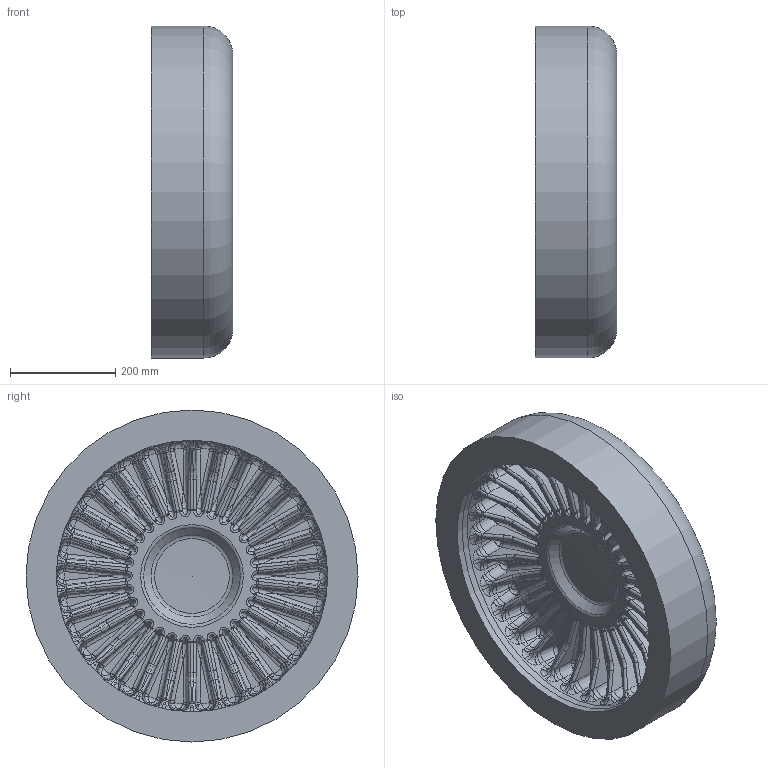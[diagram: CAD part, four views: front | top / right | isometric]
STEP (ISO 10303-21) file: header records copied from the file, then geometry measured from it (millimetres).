
FILE_DESCRIPTION(/* description */ ('Unknown'),/* implementation_level */ '2;1');
FILE_NAME(/* name */ 'CAP630C',/* time_stamp */ '2022-05-16T10:12:47+02:00',/* author */ ('Unknown'),/* organization */ ('Unknown'),/* preprocessor_version */ 'ST-DEVELOPER v18.1',/* originating_system */ 'Solid Edge',/* authorisation */ 'Unknown');
FILE_SCHEMA (('AUTOMOTIVE_DESIGN {1 0 10303 214 3 1 1}'));
Products named in the file (1): CAP630C
Bounding box: 155 x 630 x 630 mm (x, y, z)
Volume: 29606409.4 mm3; surface area: 1185424.2 mm2
Topology: 1 solids, 1 shells, 1302 faces, 3051 edges, 1662 vertices
Faces by surface type: bspline 840, cylinder 212, plane 153, torus 64, cone 33
Full cylindrical faces by diameter (mm): 515.6 x1, 630 x1
Entity records: 56449 total; most frequent: CARTESIAN_POINT 33095, ORIENTED_EDGE 5900, DIRECTION 3586, EDGE_CURVE 2950, VERTEX_POINT 1661, AXIS2_PLACEMENT_3D 1583, FACE_BOUND 1313, EDGE_LOOP 1312
